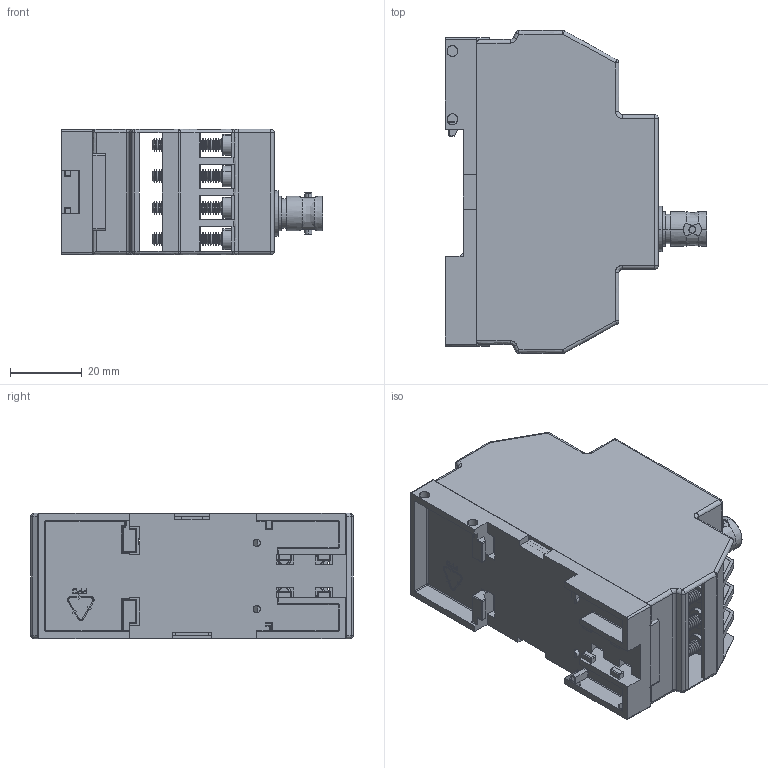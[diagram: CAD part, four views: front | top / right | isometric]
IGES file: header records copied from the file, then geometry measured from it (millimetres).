
Start section: SolidWorks IGES file using analytic representation for surfaces
Global section: file name: C:\Documents and Settings\Administrator\My Documents\EDI\3D\KD2306\KD2306.IGS; native system: SolidWorks 2008; preprocessor: SolidWorks 2008; author: Administrator; date: 100305.125921; units: millimetre
Bounding box: 72.9 x 90 x 35 mm (x, y, z)
Surface area: 47311.6 mm2 (no closed solid volume)
Topology: 0 solids, 0 shells, 2532 faces, 19680 edges, 19655 vertices
Faces by surface type: revolution 1627, bspline 905
